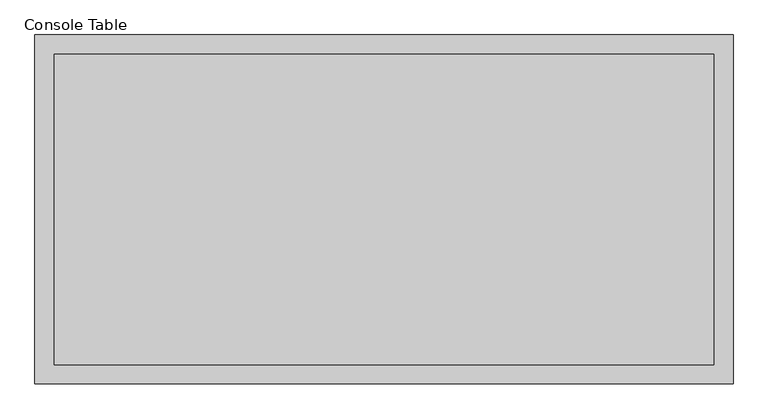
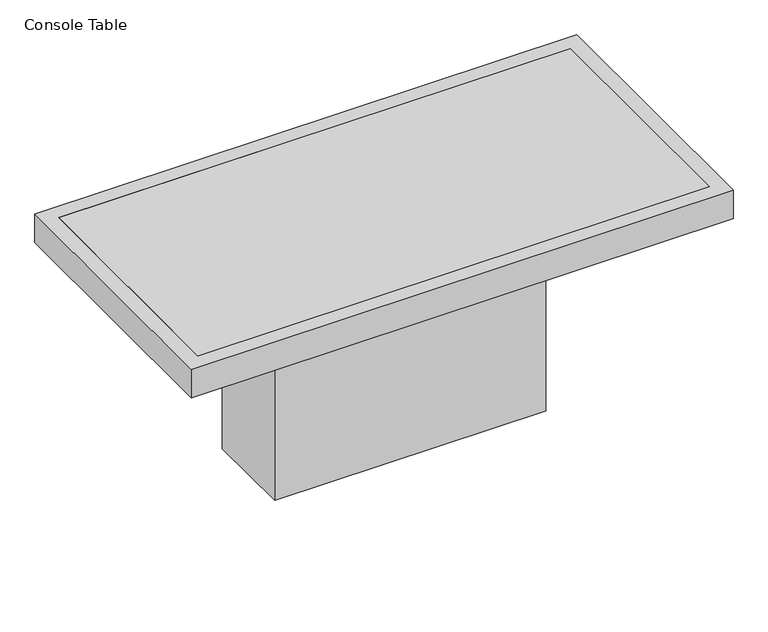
"""IFC4 building model written with IfcOpenShell, lengths in millimetres: furniture geometry."""

from ifc_helpers import new_model, si_unit, frame, origin, origin_with_axes, place, context, project, spatial, polyline, outline, extrude, source, transform, mapped, element, save


def console_table_526d3b16(model_context):
    return source(origin(), model_context, "Body", "SweptSolid", [
        extrude(outline(polyline([(457.2, 152.4), (457.2, -152.4), (-457.2, -152.4), (-457.2, 152.4), (457.2, 152.4)])), origin_with_axes(), (0.0, 0.0, 1.0), 787.4),
        extrude(outline(polyline([(-863.6, -406.4), (-863.6, 406.4), (863.6, 406.4), (863.6, -406.4), (-863.6, -406.4)])), frame((0.0, 0.0, 787.4), z_axis=(0.0, 0.0, 1.0), x_axis=(1.0, 0.0, 0.0)), (0.0, 0.0, 1.0), 25.4),
        extrude(outline(polyline([(914.4, 457.2), (914.4, -457.2), (-914.4, -457.2), (-914.4, 457.2), (914.4, 457.2)]), holes=[polyline([(863.6, 406.4), (-863.6, 406.4), (-863.6, -406.4), (863.6, -406.4), (863.6, 406.4)])]), frame((0.0, 0.0, 711.2), z_axis=(0.0, 0.0, 1.0), x_axis=(1.0, 0.0, 0.0)), (0.0, 0.0, 1.0), 101.6),
    ])


if __name__ == "__main__":
    model = new_model("IFC4")
    model_context = context("Model", 3, world=origin())
    ifc_project = project(units=[si_unit("LENGTHUNIT", "METRE", prefix="MILLI")], contexts=[model_context])
    site = spatial("IfcSite", under=ifc_project)
    building = spatial("IfcBuilding", under=site)
    placement = place(None, origin())
    console_table_shape = console_table_526d3b16(model_context)
    element("IfcFurniture", 1, ObjectType="Console Table : 72\" L  x 36\" W x 32\" H", at=placement, inside=building, context=model_context, shape_type="MappedRepresentation", body=[
        mapped(console_table_shape, transform((0.0, 0.0, 0.0), x_axis=(1.0, 0.0, 0.0), y_axis=(0.0, 1.0, 0.0), z_axis=(0.0, 0.0, 1.0))),
    ])
    save(model, "model.ifc")
